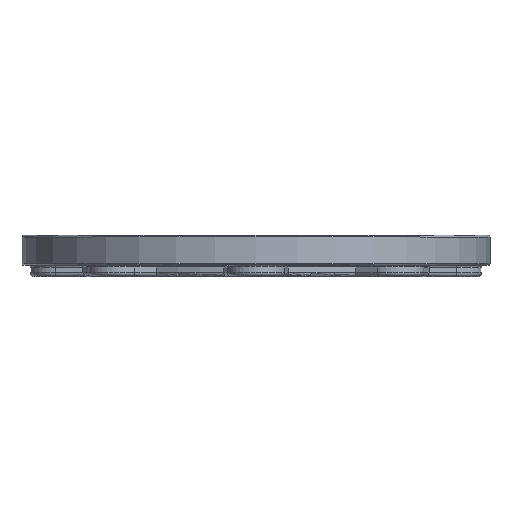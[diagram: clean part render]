
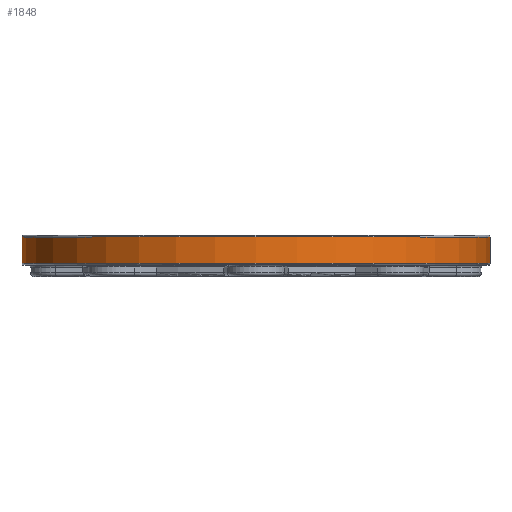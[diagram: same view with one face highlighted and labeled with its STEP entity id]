
A CAD part, top view. The second image highlights one B-rep face of the part: STEP entity #1848.
In plain terms, the highlighted cylindrical face has radius 125 mm (diameter 250 mm), a full revolution.
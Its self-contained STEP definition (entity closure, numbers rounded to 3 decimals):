
#112=CYLINDRICAL_SURFACE('',#2038,125.);
#210=CIRCLE('',#2039,125.);
#211=CIRCLE('',#2040,125.);
#383=ORIENTED_EDGE('',*,*,#890,.T.);
#384=ORIENTED_EDGE('',*,*,#891,.T.);
#890=EDGE_CURVE('',#1154,#1154,#210,.F.);
#891=EDGE_CURVE('',#1155,#1155,#211,.T.);
#1154=VERTEX_POINT('',#3014);
#1155=VERTEX_POINT('',#3016);
#1504=EDGE_LOOP('',(#383));
#1505=EDGE_LOOP('',(#384));
#1682=FACE_BOUND('',#1504,.T.);
#1683=FACE_BOUND('',#1505,.T.);
#1848=ADVANCED_FACE('',(#1682,#1683),#112,.T.);
#2038=AXIS2_PLACEMENT_3D('',#3012,#2392,#2393);
#2039=AXIS2_PLACEMENT_3D('',#3013,#2394,#2395);
#2040=AXIS2_PLACEMENT_3D('',#3015,#2396,#2397);
#2392=DIRECTION('',(0.,-1.,0.));
#2393=DIRECTION('',(0.,0.,-1.));
#2394=DIRECTION('',(0.,1.,0.));
#2395=DIRECTION('',(0.,0.,1.));
#2396=DIRECTION('',(0.,1.,0.));
#2397=DIRECTION('',(0.,0.,1.));
#3012=CARTESIAN_POINT('',(0.,22.,0.));
#3013=CARTESIAN_POINT('',(0.,21.,0.));
#3014=CARTESIAN_POINT('',(0.,21.,125.));
#3015=CARTESIAN_POINT('',(0.,7.,0.));
#3016=CARTESIAN_POINT('',(0.,7.,125.));
